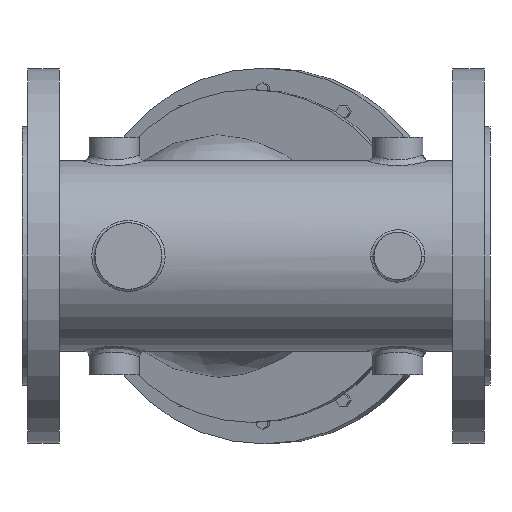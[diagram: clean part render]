
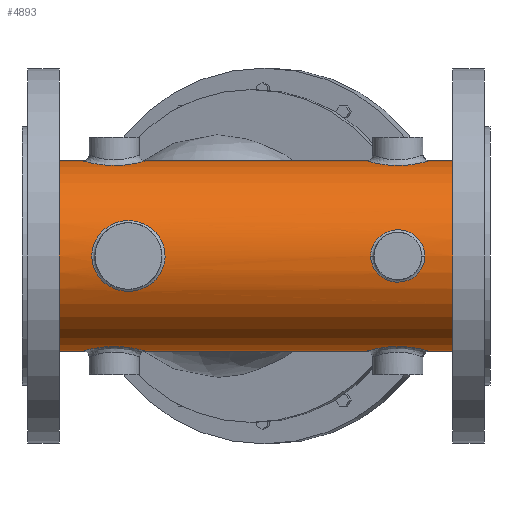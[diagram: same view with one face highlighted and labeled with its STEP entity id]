
A CAD part, front view. The second image highlights one B-rep face of the part: STEP entity #4893.
In plain terms, the highlighted cylindrical face has radius 50.8 mm (diameter 101.6 mm), a full revolution.
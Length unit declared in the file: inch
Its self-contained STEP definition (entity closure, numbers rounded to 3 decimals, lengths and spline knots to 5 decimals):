
#349=FACE_OUTER_BOUND('',#608,.T.);
#608=EDGE_LOOP('',(#3252,#3253,#3254,#3255,#3256,#3257,#3258,#3259,#3260,
#3261,#3262,#3263,#3264,#3265,#3266,#3267,#3268));
#947=CIRCLE('',#5174,2.);
#948=CIRCLE('',#5175,2.);
#949=CIRCLE('',#5176,2.);
#950=CIRCLE('',#5177,2.);
#1058=B_SPLINE_CURVE_WITH_KNOTS('',3,(#6819,#6820,#6821,#6822),
 .UNSPECIFIED.,.F.,.F.,(4,4),(-18.6025,-18.60249),
 .UNSPECIFIED.);
#1059=B_SPLINE_CURVE_WITH_KNOTS('',3,(#6824,#6825,#6826,#6827,#6828,#6829,
#6830,#6831,#6832),.UNSPECIFIED.,.F.,.F.,(4,1,1,1,1,1,4),(-10.43228,
-10.33472,-9.74416,-8.85833,-7.9725,
-7.08666,-6.20083),.UNSPECIFIED.);
#1060=B_SPLINE_CURVE_WITH_KNOTS('',3,(#6834,#6835,#6836,#6837,#6838,#6839),
 .UNSPECIFIED.,.F.,.F.,(4,1,1,4),(-12.40166,-12.10639,-11.51583,
-10.43228),.UNSPECIFIED.);
#1061=B_SPLINE_CURVE_WITH_KNOTS('',3,(#6846,#6847,#6848,#6849,#6850,#6851,
#6852),.UNSPECIFIED.,.F.,.F.,(4,1,1,1,4),(-14.37101,-13.87805,
-13.2875,-12.69694,-12.40166),.UNSPECIFIED.);
#1062=B_SPLINE_CURVE_WITH_KNOTS('',3,(#6853,#6854,#6855,#6856,#6857,#6858,
#6859,#6860,#6861),.UNSPECIFIED.,.F.,.F.,(4,1,1,1,1,1,4),(-18.60249,
-17.71666,-16.83083,-16.24027,-15.64972,
-15.05916,-14.37101),.UNSPECIFIED.);
#1063=B_SPLINE_CURVE_WITH_KNOTS('',3,(#6862,#6863,#6864,#6865,#6866,#6867,
#6868,#6869,#6870,#6871,#6872),.UNSPECIFIED.,.F.,.F.,(4,1,1,1,1,1,1,1,4),
(-5.76715,-5.49252,-5.12635,-4.39402,
-3.66168,-3.29551,-2.56318,-2.19701,
-1.92238),.UNSPECIFIED.);
#1103=LINE('',#6815,#1614);
#1104=LINE('',#6817,#1615);
#1105=LINE('',#6841,#1616);
#1106=LINE('',#6874,#1617);
#1614=VECTOR('',#5552,2.);
#1615=VECTOR('',#5553,2.);
#1616=VECTOR('',#5554,2.);
#1617=VECTOR('',#5559,2.);
#2125=VERTEX_POINT('',#6813);
#2126=VERTEX_POINT('',#6814);
#2127=VERTEX_POINT('',#6816);
#2128=VERTEX_POINT('',#6818);
#2129=VERTEX_POINT('',#6823);
#2130=VERTEX_POINT('',#6833);
#2131=VERTEX_POINT('',#6840);
#2132=VERTEX_POINT('',#6842);
#2133=VERTEX_POINT('',#6845);
#2134=VERTEX_POINT('',#6873);
#2135=VERTEX_POINT('',#6875);
#2582=EDGE_CURVE('',#2125,#2126,#1103,.T.);
#2583=EDGE_CURVE('',#2125,#2127,#1104,.T.);
#2584=EDGE_CURVE('',#2128,#2127,#1058,.T.);
#2585=EDGE_CURVE('',#2129,#2128,#1059,.T.);
#2586=EDGE_CURVE('',#2130,#2129,#1060,.T.);
#2587=EDGE_CURVE('',#2130,#2131,#1105,.T.);
#2588=EDGE_CURVE('',#2131,#2132,#947,.T.);
#2589=EDGE_CURVE('',#2132,#2131,#948,.T.);
#2590=EDGE_CURVE('',#2133,#2130,#1061,.T.);
#2591=EDGE_CURVE('',#2127,#2133,#1062,.T.);
#2592=EDGE_CURVE('',#2126,#2125,#1063,.T.);
#2593=EDGE_CURVE('',#2134,#2126,#1106,.T.);
#2594=EDGE_CURVE('',#2135,#2134,#949,.T.);
#2595=EDGE_CURVE('',#2134,#2135,#950,.T.);
#3252=ORIENTED_EDGE('',*,*,#2582,.F.);
#3253=ORIENTED_EDGE('',*,*,#2583,.T.);
#3254=ORIENTED_EDGE('',*,*,#2584,.F.);
#3255=ORIENTED_EDGE('',*,*,#2585,.F.);
#3256=ORIENTED_EDGE('',*,*,#2586,.F.);
#3257=ORIENTED_EDGE('',*,*,#2587,.T.);
#3258=ORIENTED_EDGE('',*,*,#2588,.T.);
#3259=ORIENTED_EDGE('',*,*,#2589,.T.);
#3260=ORIENTED_EDGE('',*,*,#2587,.F.);
#3261=ORIENTED_EDGE('',*,*,#2590,.F.);
#3262=ORIENTED_EDGE('',*,*,#2591,.F.);
#3263=ORIENTED_EDGE('',*,*,#2583,.F.);
#3264=ORIENTED_EDGE('',*,*,#2592,.F.);
#3265=ORIENTED_EDGE('',*,*,#2593,.F.);
#3266=ORIENTED_EDGE('',*,*,#2594,.F.);
#3267=ORIENTED_EDGE('',*,*,#2595,.F.);
#3268=ORIENTED_EDGE('',*,*,#2593,.T.);
#4592=CYLINDRICAL_SURFACE('',#5173,2.);
#4893=ADVANCED_FACE('',(#349),#4592,.T.);
#5173=AXIS2_PLACEMENT_3D('',#6812,#5550,#5551);
#5174=AXIS2_PLACEMENT_3D('',#6843,#5555,#5556);
#5175=AXIS2_PLACEMENT_3D('',#6844,#5557,#5558);
#5176=AXIS2_PLACEMENT_3D('',#6876,#5560,#5561);
#5177=AXIS2_PLACEMENT_3D('',#6877,#5562,#5563);
#5550=DIRECTION('center_axis',(1.,0.,0.));
#5551=DIRECTION('ref_axis',(0.,1.,0.));
#5552=DIRECTION('',(1.,0.,0.));
#5553=DIRECTION('',(-1.,0.,0.));
#5554=DIRECTION('',(-1.,0.,0.));
#5555=DIRECTION('center_axis',(1.,0.,0.));
#5556=DIRECTION('ref_axis',(0.,0.,-1.));
#5557=DIRECTION('center_axis',(1.,0.,0.));
#5558=DIRECTION('ref_axis',(0.,0.,-1.));
#5559=DIRECTION('',(-1.,0.,0.));
#5560=DIRECTION('center_axis',(1.,0.,0.));
#5561=DIRECTION('ref_axis',(0.,0.,-1.));
#5562=DIRECTION('center_axis',(1.,0.,0.));
#5563=DIRECTION('ref_axis',(0.,0.,-1.));
#6812=CARTESIAN_POINT('Origin',(0.,0.,0.));
#6813=CARTESIAN_POINT('',(2.412,-2.,0.));
#6814=CARTESIAN_POINT('',(3.552,-2.,0.));
#6815=CARTESIAN_POINT('',(0.,-2.,0.));
#6816=CARTESIAN_POINT('',(-1.912,-2.,0.));
#6817=CARTESIAN_POINT('',(0.,-2.,0.));
#6818=CARTESIAN_POINT('',(-1.912,-2.,0.));
#6819=CARTESIAN_POINT('Ctrl Pts',(-1.912,-2.,0.));
#6820=CARTESIAN_POINT('Ctrl Pts',(-1.912,-2.,0.));
#6821=CARTESIAN_POINT('Ctrl Pts',(-1.912,-2.,0.));
#6822=CARTESIAN_POINT('Ctrl Pts',(-1.912,-2.,0.));
#6823=CARTESIAN_POINT('',(-3.10048,-1.9,-0.6245));
#6824=CARTESIAN_POINT('Ctrl Pts',(-3.10048,-1.90002,-0.62449));
#6825=CARTESIAN_POINT('Ctrl Pts',(-3.08991,-1.89784,-0.63112));
#6826=CARTESIAN_POINT('Ctrl Pts',(-3.01408,-1.8828,-0.67614));
#6827=CARTESIAN_POINT('Ctrl Pts',(-2.82171,-1.85426,-0.74995));
#6828=CARTESIAN_POINT('Ctrl Pts',(-2.50227,-1.85431,-0.75003));
#6829=CARTESIAN_POINT('Ctrl Pts',(-2.18498,-1.91198,-0.60026));
#6830=CARTESIAN_POINT('Ctrl Pts',(-1.96614,-1.97977,-0.33649));
#6831=CARTESIAN_POINT('Ctrl Pts',(-1.912,-2.,-0.11233));
#6832=CARTESIAN_POINT('Ctrl Pts',(-1.912,-2.,0.));
#6833=CARTESIAN_POINT('',(-3.452,-2.,0.));
#6834=CARTESIAN_POINT('Ctrl Pts',(-3.45198,-1.99998,0.00001));
#6835=CARTESIAN_POINT('Ctrl Pts',(-3.45198,-1.99998,-0.03743));
#6836=CARTESIAN_POINT('Ctrl Pts',(-3.44325,-1.9969,-0.14977));
#6837=CARTESIAN_POINT('Ctrl Pts',(-3.36586,-1.96936,-0.38997));
#6838=CARTESIAN_POINT('Ctrl Pts',(-3.21792,-1.92417,-0.55085));
#6839=CARTESIAN_POINT('Ctrl Pts',(-3.10048,-1.90002,-0.62449));
#6840=CARTESIAN_POINT('',(-4.1326,-2.,0.));
#6841=CARTESIAN_POINT('',(0.,-2.,0.));
#6842=CARTESIAN_POINT('',(-4.1326,2.,0.));
#6843=CARTESIAN_POINT('Origin',(-4.1326,0.,0.));
#6844=CARTESIAN_POINT('Origin',(-4.1326,0.,0.));
#6845=CARTESIAN_POINT('',(-3.10048,-1.9,0.6245));
#6846=CARTESIAN_POINT('Ctrl Pts',(-3.10029,-1.90007,0.62444));
#6847=CARTESIAN_POINT('Ctrl Pts',(-3.15378,-1.91105,0.59101));
#6848=CARTESIAN_POINT('Ctrl Pts',(-3.26179,-1.93749,0.50374));
#6849=CARTESIAN_POINT('Ctrl Pts',(-3.38502,-1.97626,0.32963));
#6850=CARTESIAN_POINT('Ctrl Pts',(-3.44327,-1.99687,0.14976));
#6851=CARTESIAN_POINT('Ctrl Pts',(-3.45198,-1.99998,0.03745));
#6852=CARTESIAN_POINT('Ctrl Pts',(-3.45198,-1.99998,0.00001));
#6853=CARTESIAN_POINT('Ctrl Pts',(-1.912,-2.,0.));
#6854=CARTESIAN_POINT('Ctrl Pts',(-1.912,-2.,0.11233));
#6855=CARTESIAN_POINT('Ctrl Pts',(-1.96599,-1.97979,0.33642));
#6856=CARTESIAN_POINT('Ctrl Pts',(-2.16089,-1.9195,0.57103));
#6857=CARTESIAN_POINT('Ctrl Pts',(-2.3944,-1.87331,0.70217));
#6858=CARTESIAN_POINT('Ctrl Pts',(-2.62275,-1.85273,0.75322));
#6859=CARTESIAN_POINT('Ctrl Pts',(-2.87107,-1.8601,0.73513));
#6860=CARTESIAN_POINT('Ctrl Pts',(-3.02561,-1.88475,0.67111));
#6861=CARTESIAN_POINT('Ctrl Pts',(-3.10029,-1.90007,0.62444));
#6862=CARTESIAN_POINT('Ctrl Pts',(3.55208,-2.00007,-0.00009));
#6863=CARTESIAN_POINT('Ctrl Pts',(3.55204,-2.00003,0.04133));
#6864=CARTESIAN_POINT('Ctrl Pts',(3.54058,-1.99685,0.13809));
#6865=CARTESIAN_POINT('Ctrl Pts',(3.46171,-1.97693,0.33177));
#6866=CARTESIAN_POINT('Ctrl Pts',(3.24587,-1.93115,0.52625));
#6867=CARTESIAN_POINT('Ctrl Pts',(2.95046,-1.9169,0.56968));
#6868=CARTESIAN_POINT('Ctrl Pts',(2.67489,-1.94106,0.48673));
#6869=CARTESIAN_POINT('Ctrl Pts',(2.50246,-1.97652,0.33202));
#6870=CARTESIAN_POINT('Ctrl Pts',(2.42326,-1.99706,0.13797));
#6871=CARTESIAN_POINT('Ctrl Pts',(2.41213,-1.99993,0.04136));
#6872=CARTESIAN_POINT('Ctrl Pts',(2.41212,-1.99993,-0.00004));
#6873=CARTESIAN_POINT('',(4.1326,-2.,0.));
#6874=CARTESIAN_POINT('',(0.,-2.,0.));
#6875=CARTESIAN_POINT('',(4.1326,2.,0.));
#6876=CARTESIAN_POINT('Origin',(4.1326,0.,0.));
#6877=CARTESIAN_POINT('Origin',(4.1326,0.,0.));
